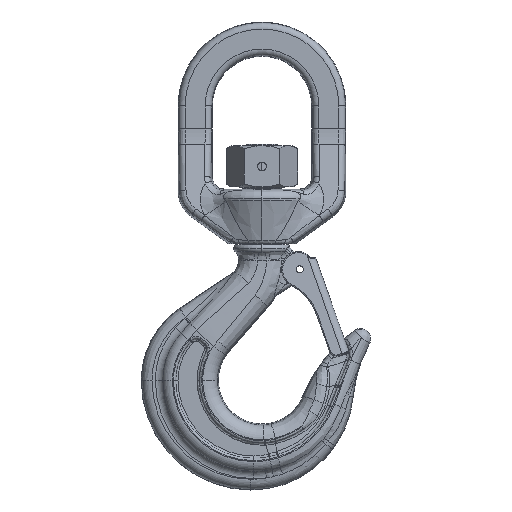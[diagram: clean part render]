
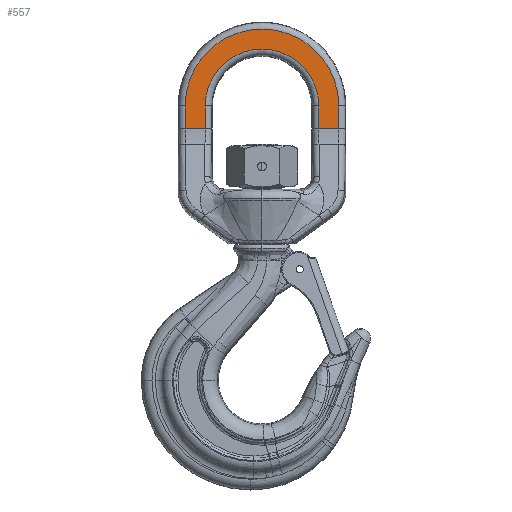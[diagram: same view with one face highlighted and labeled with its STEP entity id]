
A CAD part, top view. The second image highlights one B-rep face of the part: STEP entity #557.
In plain terms, the highlighted planar face has unit normal (0, 0, 1).
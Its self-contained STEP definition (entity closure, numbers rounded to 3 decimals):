
#557=ADVANCED_FACE('',(#1774),#1775,.T.);
#1774=FACE_OUTER_BOUND('',#23499,.T.);
#1775=PLANE('',#23500);
#23499=EDGE_LOOP('',(#29758,#29759,#29760,#29761,#29762,#29763,#29764,#29765));
#23500=AXIS2_PLACEMENT_3D('',#29766,#29767,#29768);
#29758=ORIENTED_EDGE('',*,*,#32692,.T.);
#29759=ORIENTED_EDGE('',*,*,#32693,.T.);
#29760=ORIENTED_EDGE('',*,*,#32694,.T.);
#29761=ORIENTED_EDGE('',*,*,#32695,.T.);
#29762=ORIENTED_EDGE('',*,*,#32696,.T.);
#29763=ORIENTED_EDGE('',*,*,#32697,.T.);
#29764=ORIENTED_EDGE('',*,*,#32698,.T.);
#29765=ORIENTED_EDGE('',*,*,#32699,.T.);
#29766=CARTESIAN_POINT('',(-75.0,213.7,7.75));
#29767=DIRECTION('',(0.0,0.0,1.0));
#29768=DIRECTION('',(1.0,0.0,0.0));
#32692=EDGE_CURVE('',#35142,#35143,#35144,.F.);
#32693=EDGE_CURVE('',#35143,#35145,#35146,.T.);
#32694=EDGE_CURVE('',#35145,#35147,#35148,.T.);
#32695=EDGE_CURVE('',#35147,#35149,#35150,.F.);
#32696=EDGE_CURVE('',#35149,#35151,#35152,.T.);
#32697=EDGE_CURVE('',#35151,#35153,#35154,.F.);
#32698=EDGE_CURVE('',#35153,#35155,#35156,.F.);
#32699=EDGE_CURVE('',#35155,#35142,#35157,.T.);
#35142=VERTEX_POINT('',#48220);
#35143=VERTEX_POINT('',#48221);
#35144=LINE('',#48222,#48223);
#35145=VERTEX_POINT('',#48224);
#35146=LINE('',#48225,#48226);
#35147=VERTEX_POINT('',#48227);
#35148=CIRCLE('',#48228,44.886);
#35149=VERTEX_POINT('',#48229);
#35150=LINE('',#48230,#48231);
#35151=VERTEX_POINT('',#48232);
#35152=LINE('',#48233,#48234);
#35153=VERTEX_POINT('',#48235);
#35154=LINE('',#48236,#48237);
#35155=VERTEX_POINT('',#48238);
#35156=CIRCLE('',#48239,33.191);
#35157=LINE('',#48240,#48241);
#48220=CARTESIAN_POINT('',(33.191,146.797,7.75));
#48221=CARTESIAN_POINT('',(44.886,146.797,7.75));
#48222=CARTESIAN_POINT('',(44.886,146.797,7.75));
#48223=VECTOR('',#53402,11.695);
#48224=CARTESIAN_POINT('',(44.886,160.2,7.75));
#48225=CARTESIAN_POINT('',(44.886,146.797,7.75));
#48226=VECTOR('',#53403,13.403);
#48227=CARTESIAN_POINT('',(-44.886,160.2,7.75));
#48228=AXIS2_PLACEMENT_3D('',#53404,#53405,#53406);
#48229=CARTESIAN_POINT('',(-44.886,146.797,7.75));
#48230=CARTESIAN_POINT('',(-44.886,146.797,7.75));
#48231=VECTOR('',#53407,13.403);
#48232=CARTESIAN_POINT('',(-33.191,146.797,7.75));
#48233=CARTESIAN_POINT('',(-44.886,146.797,7.75));
#48234=VECTOR('',#53408,11.695);
#48235=CARTESIAN_POINT('',(-33.191,160.2,7.75));
#48236=CARTESIAN_POINT('',(-33.191,160.2,7.75));
#48237=VECTOR('',#53409,13.403);
#48238=CARTESIAN_POINT('',(33.191,160.2,7.75));
#48239=AXIS2_PLACEMENT_3D('',#53410,#53411,#53412);
#48240=CARTESIAN_POINT('',(33.191,160.2,7.75));
#48241=VECTOR('',#53413,13.403);
#53402=DIRECTION('',(-1.0,0.0,0.0));
#53403=DIRECTION('',(0.0,1.0,0.0));
#53404=CARTESIAN_POINT('',(0.0,160.2,7.75));
#53405=DIRECTION('',(0.0,0.0,1.0));
#53406=DIRECTION('',(1.0,0.0,0.0));
#53407=DIRECTION('',(0.0,1.0,0.0));
#53408=DIRECTION('',(1.0,0.0,0.0));
#53409=DIRECTION('',(0.0,-1.0,0.0));
#53410=CARTESIAN_POINT('',(0.0,160.2,7.75));
#53411=DIRECTION('',(0.0,0.0,1.0));
#53412=DIRECTION('',(1.0,0.0,0.0));
#53413=DIRECTION('',(0.0,-1.0,0.0));
